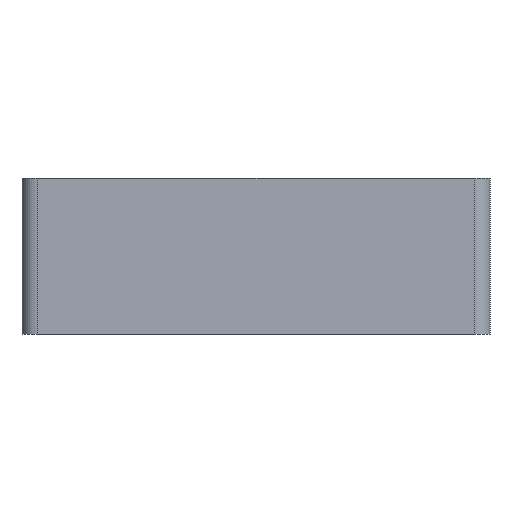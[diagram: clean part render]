
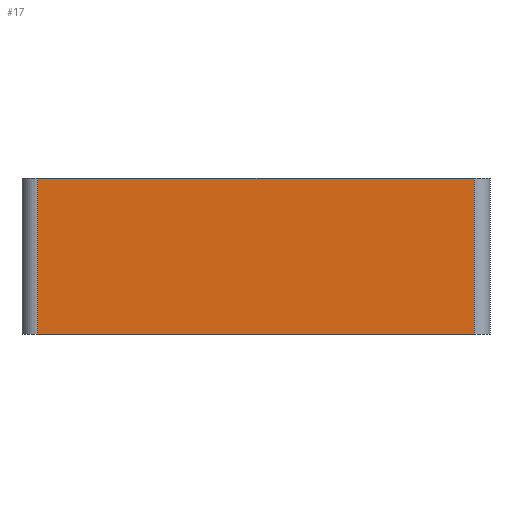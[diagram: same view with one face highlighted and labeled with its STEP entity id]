
A CAD part, left-side view. The second image highlights one B-rep face of the part: STEP entity #17.
In plain terms, the highlighted planar face has unit normal (-1, 0, 0).
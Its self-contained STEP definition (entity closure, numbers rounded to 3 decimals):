
#17 = ADVANCED_FACE('',(#18),#32,.F.);
#18 = FACE_BOUND('',#19,.F.);
#19 = EDGE_LOOP('',(#20,#55,#83,#111));
#20 = ORIENTED_EDGE('',*,*,#21,.F.);
#21 = EDGE_CURVE('',#22,#24,#26,.T.);
#22 = VERTEX_POINT('',#23);
#23 = CARTESIAN_POINT('',(-50.,-28.,10.));
#24 = VERTEX_POINT('',#25);
#25 = CARTESIAN_POINT('',(-50.,28.,10.));
#26 = SURFACE_CURVE('',#27,(#31,#43),.PCURVE_S1.);
#27 = LINE('',#28,#29);
#28 = CARTESIAN_POINT('',(-50.,-30.,10.));
#29 = VECTOR('',#30,1.);
#30 = DIRECTION('',(0.,1.,0.));
#31 = PCURVE('',#32,#37);
#32 = PLANE('',#33);
#33 = AXIS2_PLACEMENT_3D('',#34,#35,#36);
#34 = CARTESIAN_POINT('',(-50.,-30.,-10.));
#35 = DIRECTION('',(1.,0.,0.));
#36 = DIRECTION('',(0.,0.,1.));
#37 = DEFINITIONAL_REPRESENTATION('',(#38),#42);
#38 = LINE('',#39,#40);
#39 = CARTESIAN_POINT('',(20.,0.));
#40 = VECTOR('',#41,1.);
#41 = DIRECTION('',(0.,-1.));
#42 = ( GEOMETRIC_REPRESENTATION_CONTEXT(2) 
PARAMETRIC_REPRESENTATION_CONTEXT() REPRESENTATION_CONTEXT('2D SPACE',''
  ) );
#43 = PCURVE('',#44,#49);
#44 = PLANE('',#45);
#45 = AXIS2_PLACEMENT_3D('',#46,#47,#48);
#46 = CARTESIAN_POINT('',(-50.,-30.,10.));
#47 = DIRECTION('',(0.,0.,1.));
#48 = DIRECTION('',(1.,0.,0.));
#49 = DEFINITIONAL_REPRESENTATION('',(#50),#54);
#50 = LINE('',#51,#52);
#51 = CARTESIAN_POINT('',(0.,0.));
#52 = VECTOR('',#53,1.);
#53 = DIRECTION('',(0.,1.));
#54 = ( GEOMETRIC_REPRESENTATION_CONTEXT(2) 
PARAMETRIC_REPRESENTATION_CONTEXT() REPRESENTATION_CONTEXT('2D SPACE',''
  ) );
#55 = ORIENTED_EDGE('',*,*,#56,.F.);
#56 = EDGE_CURVE('',#57,#22,#59,.T.);
#57 = VERTEX_POINT('',#58);
#58 = CARTESIAN_POINT('',(-50.,-28.,-10.));
#59 = SURFACE_CURVE('',#60,(#64,#71),.PCURVE_S1.);
#60 = LINE('',#61,#62);
#61 = CARTESIAN_POINT('',(-50.,-28.,-10.));
#62 = VECTOR('',#63,1.);
#63 = DIRECTION('',(0.,0.,1.));
#64 = PCURVE('',#32,#65);
#65 = DEFINITIONAL_REPRESENTATION('',(#66),#70);
#66 = LINE('',#67,#68);
#67 = CARTESIAN_POINT('',(0.,-2.));
#68 = VECTOR('',#69,1.);
#69 = DIRECTION('',(1.,0.));
#70 = ( GEOMETRIC_REPRESENTATION_CONTEXT(2) 
PARAMETRIC_REPRESENTATION_CONTEXT() REPRESENTATION_CONTEXT('2D SPACE',''
  ) );
#71 = PCURVE('',#72,#77);
#72 = CYLINDRICAL_SURFACE('',#73,2.);
#73 = AXIS2_PLACEMENT_3D('',#74,#75,#76);
#74 = CARTESIAN_POINT('',(-48.,-28.,-10.));
#75 = DIRECTION('',(0.,0.,1.));
#76 = DIRECTION('',(-1.,-0.,0.));
#77 = DEFINITIONAL_REPRESENTATION('',(#78),#82);
#78 = LINE('',#79,#80);
#79 = CARTESIAN_POINT('',(0.,0.));
#80 = VECTOR('',#81,1.);
#81 = DIRECTION('',(0.,1.));
#82 = ( GEOMETRIC_REPRESENTATION_CONTEXT(2) 
PARAMETRIC_REPRESENTATION_CONTEXT() REPRESENTATION_CONTEXT('2D SPACE',''
  ) );
#83 = ORIENTED_EDGE('',*,*,#84,.T.);
#84 = EDGE_CURVE('',#57,#85,#87,.T.);
#85 = VERTEX_POINT('',#86);
#86 = CARTESIAN_POINT('',(-50.,28.,-10.));
#87 = SURFACE_CURVE('',#88,(#92,#99),.PCURVE_S1.);
#88 = LINE('',#89,#90);
#89 = CARTESIAN_POINT('',(-50.,-30.,-10.));
#90 = VECTOR('',#91,1.);
#91 = DIRECTION('',(0.,1.,0.));
#92 = PCURVE('',#32,#93);
#93 = DEFINITIONAL_REPRESENTATION('',(#94),#98);
#94 = LINE('',#95,#96);
#95 = CARTESIAN_POINT('',(0.,0.));
#96 = VECTOR('',#97,1.);
#97 = DIRECTION('',(0.,-1.));
#98 = ( GEOMETRIC_REPRESENTATION_CONTEXT(2) 
PARAMETRIC_REPRESENTATION_CONTEXT() REPRESENTATION_CONTEXT('2D SPACE',''
  ) );
#99 = PCURVE('',#100,#105);
#100 = PLANE('',#101);
#101 = AXIS2_PLACEMENT_3D('',#102,#103,#104);
#102 = CARTESIAN_POINT('',(-50.,-30.,-10.));
#103 = DIRECTION('',(0.,0.,1.));
#104 = DIRECTION('',(1.,0.,0.));
#105 = DEFINITIONAL_REPRESENTATION('',(#106),#110);
#106 = LINE('',#107,#108);
#107 = CARTESIAN_POINT('',(0.,0.));
#108 = VECTOR('',#109,1.);
#109 = DIRECTION('',(0.,1.));
#110 = ( GEOMETRIC_REPRESENTATION_CONTEXT(2) 
PARAMETRIC_REPRESENTATION_CONTEXT() REPRESENTATION_CONTEXT('2D SPACE',''
  ) );
#111 = ORIENTED_EDGE('',*,*,#112,.T.);
#112 = EDGE_CURVE('',#85,#24,#113,.T.);
#113 = SURFACE_CURVE('',#114,(#118,#125),.PCURVE_S1.);
#114 = LINE('',#115,#116);
#115 = CARTESIAN_POINT('',(-50.,28.,-10.));
#116 = VECTOR('',#117,1.);
#117 = DIRECTION('',(0.,0.,1.));
#118 = PCURVE('',#32,#119);
#119 = DEFINITIONAL_REPRESENTATION('',(#120),#124);
#120 = LINE('',#121,#122);
#121 = CARTESIAN_POINT('',(0.,-58.));
#122 = VECTOR('',#123,1.);
#123 = DIRECTION('',(1.,0.));
#124 = ( GEOMETRIC_REPRESENTATION_CONTEXT(2) 
PARAMETRIC_REPRESENTATION_CONTEXT() REPRESENTATION_CONTEXT('2D SPACE',''
  ) );
#125 = PCURVE('',#126,#131);
#126 = CYLINDRICAL_SURFACE('',#127,2.);
#127 = AXIS2_PLACEMENT_3D('',#128,#129,#130);
#128 = CARTESIAN_POINT('',(-48.,28.,-10.));
#129 = DIRECTION('',(0.,0.,1.));
#130 = DIRECTION('',(-1.,-0.,0.));
#131 = DEFINITIONAL_REPRESENTATION('',(#132),#136);
#132 = LINE('',#133,#134);
#133 = CARTESIAN_POINT('',(-0.,0.));
#134 = VECTOR('',#135,1.);
#135 = DIRECTION('',(-0.,1.));
#136 = ( GEOMETRIC_REPRESENTATION_CONTEXT(2) 
PARAMETRIC_REPRESENTATION_CONTEXT() REPRESENTATION_CONTEXT('2D SPACE',''
  ) );
